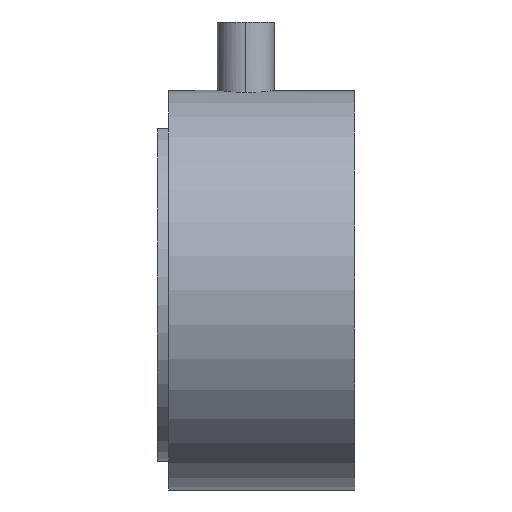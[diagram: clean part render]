
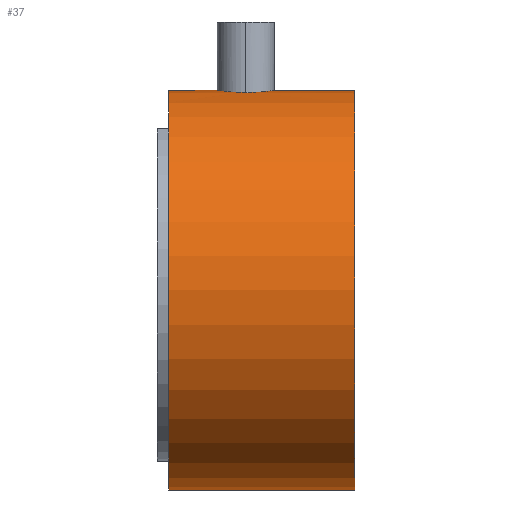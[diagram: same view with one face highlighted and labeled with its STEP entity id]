
A CAD part, left-side view. The second image highlights one B-rep face of the part: STEP entity #37.
In plain terms, the highlighted cylindrical face has radius 11.113 mm (diameter 22.225 mm), a partial arc.
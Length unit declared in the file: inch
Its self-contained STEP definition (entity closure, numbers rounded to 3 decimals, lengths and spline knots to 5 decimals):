
#6 = B_SPLINE_CURVE_WITH_KNOTS ( 'NONE', 3,
 ( #425, #528, #512, #514, #485, #495, #504, #520, #534, #494, #515, #521 ),
 .UNSPECIFIED., .F., .F.,
 ( 4, 2, 2, 2, 2, 4 ),
 ( 0.00497, 0.00559, 0.00621, 0.00652, 0.00683, 0.00745 ),
 .UNSPECIFIED. ) ;
#13 = B_SPLINE_CURVE_WITH_KNOTS ( 'NONE', 3,
 ( #510, #486, #524, #502, #505, #506, #536, #525, #511, #518, #497, #490, #496, #500, #492, #507 ),
 .UNSPECIFIED., .F., .F.,
 ( 4, 2, 2, 2, 2, 2, 2, 4 ),
 ( 0.00249, 0.0028, 0.00311, 0.00373, 0.00404, 0.00435, 0.00466, 0.00497 ),
 .UNSPECIFIED. ) ;
#37 = ADVANCED_FACE ( 'NONE', ( #1088 ), #1096, .T. ) ;
#73 = VERTEX_POINT ( 'NONE', #305 ) ;
#76 = VERTEX_POINT ( 'NONE', #315 ) ;
#83 = VERTEX_POINT ( 'NONE', #316 ) ;
#101 = VERTEX_POINT ( 'NONE', #382 ) ;
#103 = VERTEX_POINT ( 'NONE', #398 ) ;
#108 = VERTEX_POINT ( 'NONE', #375 ) ;
#114 = VERTEX_POINT ( 'NONE', #386 ) ;
#196 = CARTESIAN_POINT ( 'NONE',  ( 0., 0.07, 0. ) ) ;
#197 = DIRECTION ( 'NONE',  ( 0., 0., -1. ) ) ;
#200 = DIRECTION ( 'NONE',  ( 0., -1., 0. ) ) ;
#305 = CARTESIAN_POINT ( 'NONE',  ( 0., 0.408, -0.4375 ) ) ;
#315 = CARTESIAN_POINT ( 'NONE',  ( 0., 0.408, 0.4375 ) ) ;
#316 = CARTESIAN_POINT ( 'NONE',  ( -0.0625, 0.239, 0.43301 ) ) ;
#362 = CARTESIAN_POINT ( 'NONE',  ( 0., 0.07, -0.4375 ) ) ;
#363 = DIRECTION ( 'NONE',  ( 0., -1., 0. ) ) ;
#375 = CARTESIAN_POINT ( 'NONE',  ( 0., 0.1765, 0.4375 ) ) ;
#382 = CARTESIAN_POINT ( 'NONE',  ( 0., 0.3015, 0.4375 ) ) ;
#386 = CARTESIAN_POINT ( 'NONE',  ( 0., 0., -0.4375 ) ) ;
#398 = CARTESIAN_POINT ( 'NONE',  ( 0., 0., 0.4375 ) ) ;
#412 = CARTESIAN_POINT ( 'NONE',  ( 0., 0.07, 0.4375 ) ) ;
#414 = DIRECTION ( 'NONE',  ( 0., 1., 0. ) ) ;
#424 = DIRECTION ( 'NONE',  ( 0., -1., 0. ) ) ;
#425 = CARTESIAN_POINT ( 'NONE',  ( -0.0625, 0.239, 0.43301 ) ) ;
#426 = CARTESIAN_POINT ( 'NONE',  ( 0., 0., 0. ) ) ;
#440 = DIRECTION ( 'NONE',  ( 1., 0., 0. ) ) ;
#485 = CARTESIAN_POINT ( 'NONE',  ( -0.04997, 0.27741, 0.43468 ) ) ;
#486 = CARTESIAN_POINT ( 'NONE',  ( -0.00408, 0.1765, 0.4375 ) ) ;
#490 = CARTESIAN_POINT ( 'NONE',  ( -0.05931, 0.21886, 0.43346 ) ) ;
#492 = CARTESIAN_POINT ( 'NONE',  ( -0.0625, 0.23492, 0.43301 ) ) ;
#494 = CARTESIAN_POINT ( 'NONE',  ( -0.01638, 0.29987, 0.43726 ) ) ;
#495 = CARTESIAN_POINT ( 'NONE',  ( -0.04133, 0.28606, 0.43555 ) ) ;
#496 = CARTESIAN_POINT ( 'NONE',  ( -0.06049, 0.22275, 0.4333 ) ) ;
#497 = CARTESIAN_POINT ( 'NONE',  ( -0.05617, 0.2113, 0.43388 ) ) ;
#500 = CARTESIAN_POINT ( 'NONE',  ( -0.06209, 0.23077, 0.43307 ) ) ;
#502 = CARTESIAN_POINT ( 'NONE',  ( -0.01625, 0.17851, 0.43722 ) ) ;
#504 = CARTESIAN_POINT ( 'NONE',  ( -0.03811, 0.2887, 0.43585 ) ) ;
#505 = CARTESIAN_POINT ( 'NONE',  ( -0.02014, 0.17969, 0.43705 ) ) ;
#506 = CARTESIAN_POINT ( 'NONE',  ( -0.0315, 0.1844, 0.43643 ) ) ;
#507 = CARTESIAN_POINT ( 'NONE',  ( -0.0625, 0.239, 0.43301 ) ) ;
#510 = CARTESIAN_POINT ( 'NONE',  ( 0., 0.1765, 0.4375 ) ) ;
#511 = CARTESIAN_POINT ( 'NONE',  ( -0.04969, 0.20088, 0.43467 ) ) ;
#512 = CARTESIAN_POINT ( 'NONE',  ( -0.06086, 0.2554, 0.43326 ) ) ;
#514 = CARTESIAN_POINT ( 'NONE',  ( -0.05462, 0.27045, 0.43409 ) ) ;
#515 = CARTESIAN_POINT ( 'NONE',  ( -0.00826, 0.3015, 0.4375 ) ) ;
#518 = CARTESIAN_POINT ( 'NONE',  ( -0.05422, 0.20764, 0.43413 ) ) ;
#520 = CARTESIAN_POINT ( 'NONE',  ( -0.03133, 0.29323, 0.43639 ) ) ;
#521 = CARTESIAN_POINT ( 'NONE',  ( 0., 0.3015, 0.4375 ) ) ;
#524 = CARTESIAN_POINT ( 'NONE',  ( -0.00823, 0.17691, 0.43744 ) ) ;
#525 = CARTESIAN_POINT ( 'NONE',  ( -0.04711, 0.19772, 0.43497 ) ) ;
#528 = CARTESIAN_POINT ( 'NONE',  ( -0.0625, 0.24716, 0.43301 ) ) ;
#534 = CARTESIAN_POINT ( 'NONE',  ( -0.02774, 0.29516, 0.43664 ) ) ;
#536 = CARTESIAN_POINT ( 'NONE',  ( -0.03838, 0.18899, 0.43585 ) ) ;
#588 = CARTESIAN_POINT ( 'NONE',  ( 0., 0.408, 0. ) ) ;
#591 = DIRECTION ( 'NONE',  ( 0., 1., 0. ) ) ;
#592 = DIRECTION ( 'NONE',  ( 0., 0., 1. ) ) ;
#603 = DIRECTION ( 'NONE',  ( 0., -1., 0. ) ) ;
#619 = CARTESIAN_POINT ( 'NONE',  ( 0., 0.07, 0.4375 ) ) ;
#828 = EDGE_LOOP ( 'NONE', ( #890, #843, #852, #867, #878, #844, #868 ) ) ;
#843 = ORIENTED_EDGE ( 'NONE', *, *, #1381, .F. ) ;
#844 = ORIENTED_EDGE ( 'NONE', *, *, #1360, .T. ) ;
#852 = ORIENTED_EDGE ( 'NONE', *, *, #1313, .T. ) ;
#867 = ORIENTED_EDGE ( 'NONE', *, *, #1337, .T. ) ;
#868 = ORIENTED_EDGE ( 'NONE', *, *, #1353, .T. ) ;
#878 = ORIENTED_EDGE ( 'NONE', *, *, #1368, .F. ) ;
#890 = ORIENTED_EDGE ( 'NONE', *, *, #1351, .F. ) ;
#1088 = FACE_OUTER_BOUND ( 'NONE', #828, .T. ) ;
#1096 = CYLINDRICAL_SURFACE ( 'NONE', #1449, 0.4375 ) ;
#1136 = VECTOR ( 'NONE', #363, 39.37008 ) ;
#1181 = LINE ( 'NONE', #362, #1136 ) ;
#1201 = CIRCLE ( 'NONE', #1461, 0.4375 ) ;
#1221 = VECTOR ( 'NONE', #424, 39.37008 ) ;
#1222 = LINE ( 'NONE', #412, #1221 ) ;
#1235 = CIRCLE ( 'NONE', #1522, 0.4375 ) ;
#1245 = VECTOR ( 'NONE', #603, 39.37008 ) ;
#1270 = LINE ( 'NONE', #619, #1245 ) ;
#1313 = EDGE_CURVE ( 'NONE', #73, #114, #1181, .T. ) ;
#1337 = EDGE_CURVE ( 'NONE', #114, #103, #1201, .T. ) ;
#1351 = EDGE_CURVE ( 'NONE', #76, #101, #1222, .T. ) ;
#1353 = EDGE_CURVE ( 'NONE', #83, #101, #6, .T. ) ;
#1360 = EDGE_CURVE ( 'NONE', #108, #83, #13, .T. ) ;
#1368 = EDGE_CURVE ( 'NONE', #108, #103, #1270, .T. ) ;
#1381 = EDGE_CURVE ( 'NONE', #73, #76, #1235, .T. ) ;
#1449 = AXIS2_PLACEMENT_3D ( 'NONE', #196, #200, #197 ) ;
#1461 = AXIS2_PLACEMENT_3D ( 'NONE', #426, #414, #440 ) ;
#1522 = AXIS2_PLACEMENT_3D ( 'NONE', #588, #591, #592 ) ;
